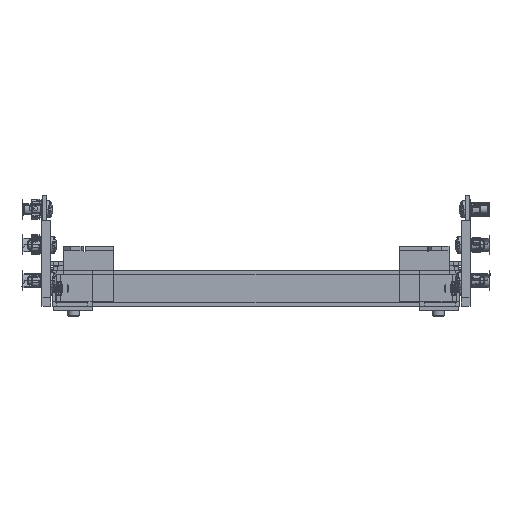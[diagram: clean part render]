
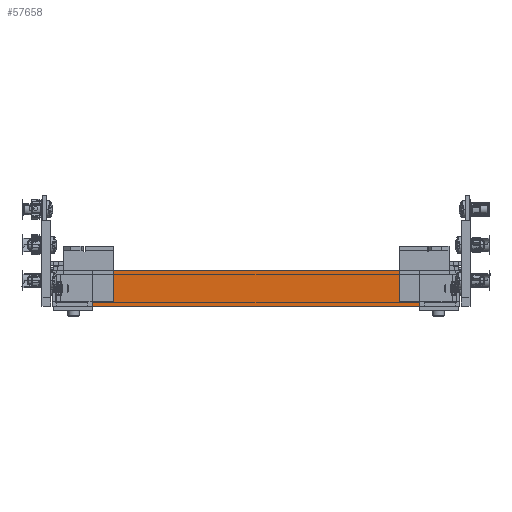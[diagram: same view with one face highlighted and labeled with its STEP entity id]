
A CAD part, front view. The second image highlights one B-rep face of the part: STEP entity #57658.
In plain terms, the highlighted planar face has unit normal (0, -1, 0) as drawn and (-1, 0, 0) by its records, which use the part's own axes.
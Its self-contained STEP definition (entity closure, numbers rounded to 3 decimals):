
#555 = VECTOR ( 'NONE', #49212, 1000. ) ;
#2220 = EDGE_CURVE ( 'NONE', #95887, #101608, #22317, .T. ) ;
#2899 = ORIENTED_EDGE ( 'NONE', *, *, #3244, .T. ) ;
#3244 = EDGE_CURVE ( 'NONE', #43952, #121289, #61886, .T. ) ;
#4504 = ORIENTED_EDGE ( 'NONE', *, *, #64415, .F. ) ;
#5978 = LINE ( 'NONE', #36009, #38413 ) ;
#7047 = DIRECTION ( 'NONE',  ( 0., 0., -1. ) ) ;
#7212 = EDGE_CURVE ( 'NONE', #119861, #91120, #69723, .T. ) ;
#7289 = VECTOR ( 'NONE', #72527, 1000. ) ;
#10261 = VECTOR ( 'NONE', #67201, 1000. ) ;
#15109 = CARTESIAN_POINT ( 'NONE',  ( -741.51, 114.5, 2.5 ) ) ;
#15751 = CARTESIAN_POINT ( 'NONE',  ( -741.51, -114.5, 3.1 ) ) ;
#16273 = CARTESIAN_POINT ( 'NONE',  ( -741.51, 114.5, 25. ) ) ;
#19009 = AXIS2_PLACEMENT_3D ( 'NONE', #15109, #106447, #46448 ) ;
#20471 = CARTESIAN_POINT ( 'NONE',  ( -741.51, 114.5, 2.5 ) ) ;
#22317 = LINE ( 'NONE', #22975, #87903 ) ;
#22975 = CARTESIAN_POINT ( 'NONE',  ( -741.51, -140.5, 0. ) ) ;
#24197 = ORIENTED_EDGE ( 'NONE', *, *, #7212, .T. ) ;
#28190 = EDGE_CURVE ( 'NONE', #121289, #93193, #88846, .T. ) ;
#30964 = CARTESIAN_POINT ( 'NONE',  ( -741.51, 114.5, 3.1 ) ) ;
#33363 = LINE ( 'NONE', #74925, #10261 ) ;
#36009 = CARTESIAN_POINT ( 'NONE',  ( -741.51, 114.5, 25. ) ) ;
#38413 = VECTOR ( 'NONE', #46887, 1000. ) ;
#38912 = ORIENTED_EDGE ( 'NONE', *, *, #69146, .F. ) ;
#41433 = DIRECTION ( 'NONE',  ( 0., -1., 0. ) ) ;
#42253 = CARTESIAN_POINT ( 'NONE',  ( -741.51, 114.5, 3.1 ) ) ;
#42353 = VECTOR ( 'NONE', #112327, 1000. ) ;
#43952 = VERTEX_POINT ( 'NONE', #15751 ) ;
#45032 = ORIENTED_EDGE ( 'NONE', *, *, #70734, .F. ) ;
#45786 = PLANE ( 'NONE',  #19009 ) ;
#46051 = EDGE_LOOP ( 'NONE', ( #2899, #88827, #38912, #45032, #24197, #97270, #92875, #4504 ) ) ;
#46448 = DIRECTION ( 'NONE',  ( 0., 0., -1. ) ) ;
#46887 = DIRECTION ( 'NONE',  ( 0., -1., 0. ) ) ;
#48561 = CARTESIAN_POINT ( 'NONE',  ( -741.51, -114.5, 2.5 ) ) ;
#49212 = DIRECTION ( 'NONE',  ( 0., 0., -1. ) ) ;
#56151 = CARTESIAN_POINT ( 'NONE',  ( -741.51, -114.5, 25. ) ) ;
#56669 = FACE_OUTER_BOUND ( 'NONE', #46051, .T. ) ;
#57658 = ADVANCED_FACE ( 'NONE', ( #56669 ), #45786, .F. ) ;
#58090 = VECTOR ( 'NONE', #128407, 1000. ) ;
#58258 = VECTOR ( 'NONE', #7047, 1000. ) ;
#61886 = LINE ( 'NONE', #124589, #42353 ) ;
#64415 = EDGE_CURVE ( 'NONE', #43952, #101608, #92163, .T. ) ;
#66364 = CARTESIAN_POINT ( 'NONE',  ( -741.51, -114.5, 21.9 ) ) ;
#67201 = DIRECTION ( 'NONE',  ( 0., 0., 1. ) ) ;
#69146 = EDGE_CURVE ( 'NONE', #75023, #93193, #5978, .T. ) ;
#69723 = LINE ( 'NONE', #20471, #58258 ) ;
#70734 = EDGE_CURVE ( 'NONE', #119861, #75023, #33363, .T. ) ;
#72527 = DIRECTION ( 'NONE',  ( 0., 0., -1. ) ) ;
#73178 = CARTESIAN_POINT ( 'NONE',  ( -741.51, 114.5, 21.9 ) ) ;
#74925 = CARTESIAN_POINT ( 'NONE',  ( -741.51, 114.5, 2.5 ) ) ;
#75023 = VERTEX_POINT ( 'NONE', #16273 ) ;
#86313 = CARTESIAN_POINT ( 'NONE',  ( -741.51, -114.5, 21.9 ) ) ;
#87903 = VECTOR ( 'NONE', #41433, 1000. ) ;
#88827 = ORIENTED_EDGE ( 'NONE', *, *, #28190, .T. ) ;
#88846 = LINE ( 'NONE', #66364, #58090 ) ;
#91120 = VERTEX_POINT ( 'NONE', #42253 ) ;
#92163 = LINE ( 'NONE', #48561, #555 ) ;
#92875 = ORIENTED_EDGE ( 'NONE', *, *, #2220, .T. ) ;
#93193 = VERTEX_POINT ( 'NONE', #56151 ) ;
#95887 = VERTEX_POINT ( 'NONE', #133160 ) ;
#97270 = ORIENTED_EDGE ( 'NONE', *, *, #104214, .T. ) ;
#101608 = VERTEX_POINT ( 'NONE', #119860 ) ;
#104214 = EDGE_CURVE ( 'NONE', #91120, #95887, #124334, .T. ) ;
#106447 = DIRECTION ( 'NONE',  ( 1., 0., 0. ) ) ;
#112327 = DIRECTION ( 'NONE',  ( 0., 0., 1. ) ) ;
#119860 = CARTESIAN_POINT ( 'NONE',  ( -741.51, -114.5, 0. ) ) ;
#119861 = VERTEX_POINT ( 'NONE', #73178 ) ;
#121289 = VERTEX_POINT ( 'NONE', #86313 ) ;
#124334 = LINE ( 'NONE', #30964, #7289 ) ;
#124589 = CARTESIAN_POINT ( 'NONE',  ( -741.51, -114.5, 2.5 ) ) ;
#128407 = DIRECTION ( 'NONE',  ( 0., 0., 1. ) ) ;
#133160 = CARTESIAN_POINT ( 'NONE',  ( -741.51, 114.5, 0. ) ) ;
